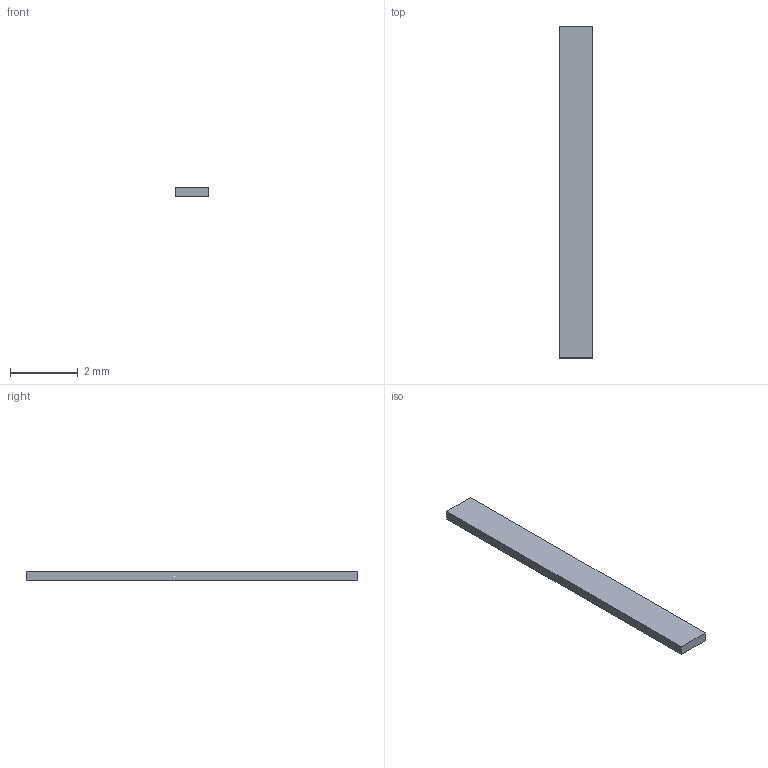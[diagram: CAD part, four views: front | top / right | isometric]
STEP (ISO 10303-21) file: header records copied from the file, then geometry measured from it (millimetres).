
FILE_DESCRIPTION(('Open CASCADE Model'),'2;1');
FILE_NAME('Open CASCADE Shape Model','2026-09-09T12:58:10',('Author'),( 'Open CASCADE'),'Open CASCADE STEP processor 7.9','Open CASCADE 7.9' ,'Unknown');
FILE_SCHEMA(('AUTOMOTIVE_DESIGN { 1 0 10303 214 1 1 1 1 }'));
Length unit declared in the file: millimetre
Products named in the file (1): Open CASCADE STEP translator 7.9 26
Bounding box: 1 x 9.8 x 0.28 mm (x, y, z)
Volume: 2.7 mm3; surface area: 25.6 mm2
Topology: 1 solids, 1 shells, 6 faces, 12 edges, 8 vertices
Faces by surface type: plane 6
Entity records: 322 total; most frequent: CARTESIAN_POINT 51, DIRECTION 50, LINE 36, VECTOR 36, ORIENTED_EDGE 24, PCURVE 24, DEFINITIONAL_REPRESENTATION 24, EDGE_CURVE 12
